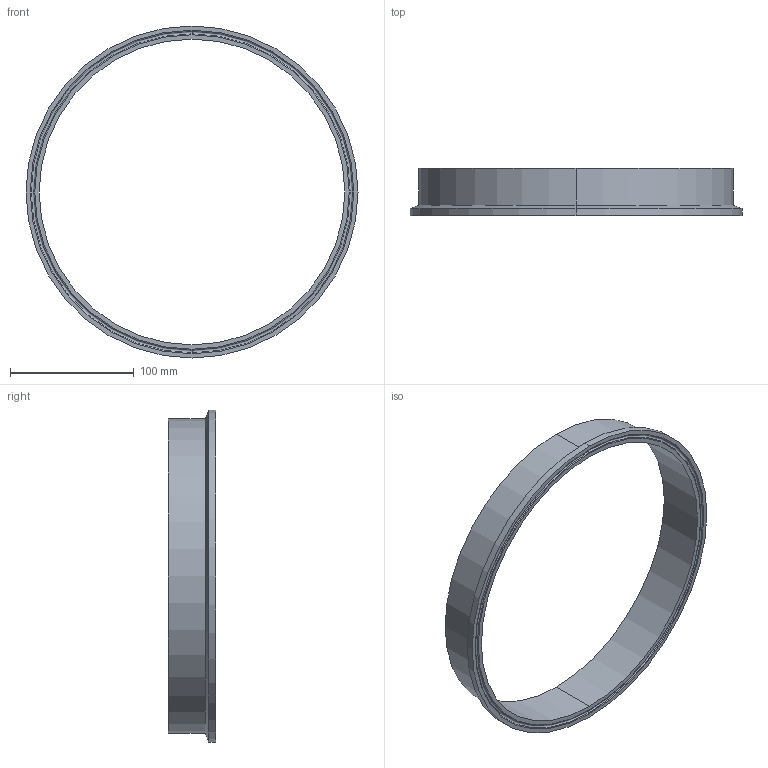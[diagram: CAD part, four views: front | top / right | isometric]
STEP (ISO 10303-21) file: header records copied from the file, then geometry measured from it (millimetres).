
FILE_DESCRIPTION (( 'STEP AP203' ), '1' );
FILE_NAME ('EG14AM710.0.STEP', '2018-05-01T15:11:46', ( 'vneprd' ), ( 'Microsoft' ), 'SwSTEP 2.0', 'SolidWorks 2014', '' );
FILE_SCHEMA (( 'CONFIG_CONTROL_DESIGN' ));
Length unit declared in the file: inch
Products named in the file (1): EG14AM710.0
Bounding box: 268.48 x 38.1 x 268.48 mm (x, y, z)
Volume: 141126.1 mm3; surface area: 76549.4 mm2
Topology: 1 solids, 1 shells, 17 faces, 34 edges, 20 vertices
Faces by surface type: cylinder 6, torus 6, plane 3, cone 2
Entity records: 533 total; most frequent: DIRECTION 96, CARTESIAN_POINT 72, ORIENTED_EDGE 68, AXIS2_PLACEMENT_3D 44, EDGE_CURVE 34, CIRCLE 26, EDGE_LOOP 20, VERTEX_POINT 20
